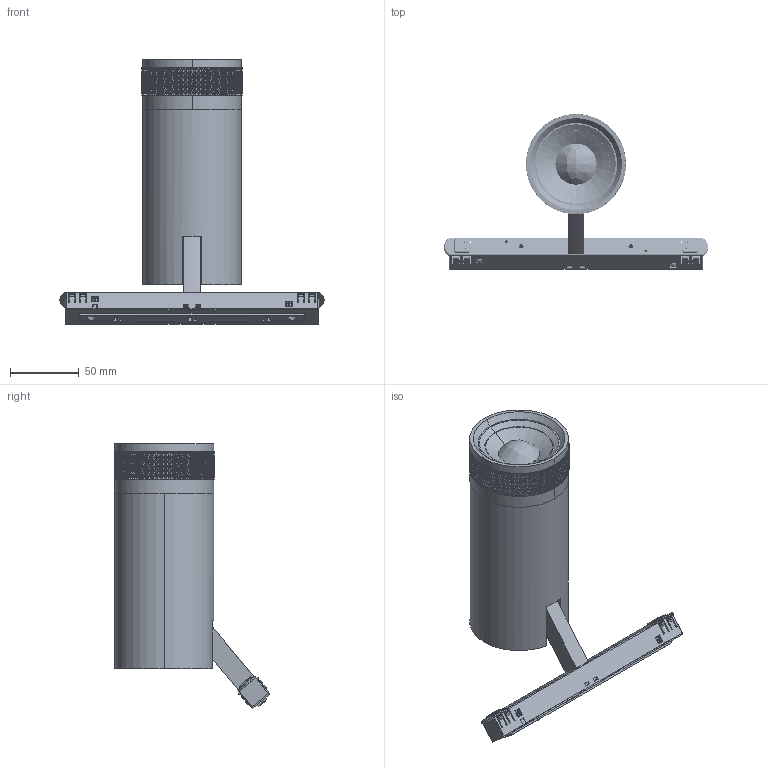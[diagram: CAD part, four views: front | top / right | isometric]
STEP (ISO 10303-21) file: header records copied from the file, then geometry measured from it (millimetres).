
FILE_DESCRIPTION (( 'STEP AP203' ), '1' );
FILE_NAME ('410129.STEP', '2025-04-02T02:56:40', ( '微软用户' ), ( '微软中国' ), 'SwSTEP 2.0', 'SolidWorks 2020', '' );
FILE_SCHEMA (( 'CONFIG_CONTROL_DESIGN' ));
Length unit declared in the file: millimetre
Products named in the file (18): 15X25MM_BAIBI_HUODONG_2; MANIFOLD_SOLID_BREP_1147; 10-08-G1_1; LVJI_BAN____2; MANIFOLD_SOLID_BREP_1148; 10-10-gk-2; 73_GUNHUA_LVJIAN_1; MANIFOLD_SOLID_BREP_1149; 410129; 66X18MM_NEI_HUAN_1; MANIFOLD_SOLID_BREP_1150; 50X18MM_TOU_JING_1; MANIFOLD_SOLID_BREP_1155; MANIFOLD_SOLID_BREP_1145; MANIFOLD_SOLID_BREP_1156; 72_DENG_TONG_1; MANIFOLD_SOLID_BREP_1146; 10-07-WJ1
Assembly tree (17 placements, depth 3):
  410129
    72_DENG_TONG_1
    15X25MM_BAIBI_HUODONG_2
    LVJI_BAN____2
    73_GUNHUA_LVJIAN_1
    66X18MM_NEI_HUAN_1
    50X18MM_TOU_JING_1
    10-10-gk-2
      MANIFOLD_SOLID_BREP_1145
      MANIFOLD_SOLID_BREP_1146
      MANIFOLD_SOLID_BREP_1147
      MANIFOLD_SOLID_BREP_1148
      MANIFOLD_SOLID_BREP_1149
      MANIFOLD_SOLID_BREP_1150
      MANIFOLD_SOLID_BREP_1155
      MANIFOLD_SOLID_BREP_1156
      10-07-WJ1
      10-08-G1_1
Bounding box: 192.8 x 113.44 x 193.06 mm (x, y, z)
Volume: 613872.8 mm3; surface area: 120409.7 mm2
Topology: 20 solids, 20 shells, 5195 faces, 13424 edges, 8304 vertices
Faces by surface type: bspline 2029, plane 1859, cylinder 1250, cone 57
Entity records: 324029 total; most frequent: CARTESIAN_POINT 219898, ORIENTED_EDGE 26848, EDGE_CURVE 13424, DIRECTION 12026, B_SPLINE_CURVE_WITH_KNOTS 8667, VERTEX_POINT 8302, EDGE_LOOP 5320, FACE_OUTER_BOUND 5195
